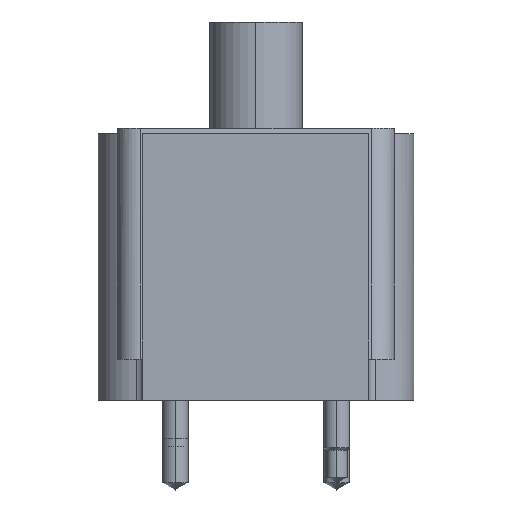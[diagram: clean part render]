
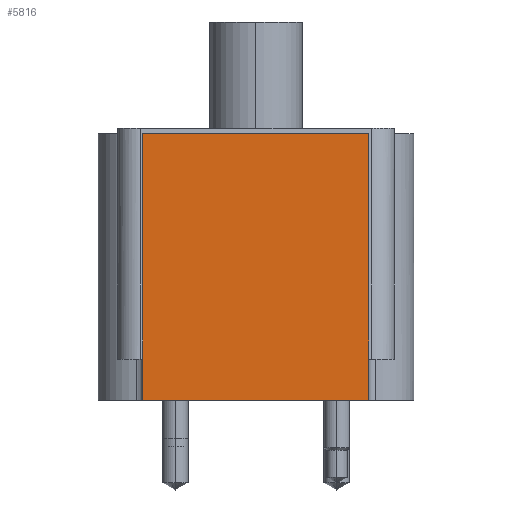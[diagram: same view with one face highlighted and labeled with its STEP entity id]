
A CAD part, left-side view. The second image highlights one B-rep face of the part: STEP entity #5816.
In plain terms, the highlighted planar face has unit normal (-1, 0, 0).
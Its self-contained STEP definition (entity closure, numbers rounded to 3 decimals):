
#5448=CARTESIAN_POINT('',(-84.201,34.988,82.55));
#5449=VERTEX_POINT('',#5448);
#5456=CARTESIAN_POINT('',(-84.201,-34.988,82.55));
#5457=VERTEX_POINT('',#5456);
#5458=CARTESIAN_POINT('',(-84.201,0.0,82.55));
#5459=DIRECTION('',(0.0,1.0,0.0));
#5460=VECTOR('',#5459,1.0);
#5461=LINE('',#5458,#5460);
#5462=EDGE_CURVE('',#5457,#5449,#5461,.T.);
#5786=CARTESIAN_POINT('',(-84.201,34.988,0.0));
#5787=VERTEX_POINT('',#5786);
#5788=CARTESIAN_POINT('',(-84.201,34.988,0.0));
#5789=DIRECTION('',(0.0,0.0,1.0));
#5790=VECTOR('',#5789,1.0);
#5791=LINE('',#5788,#5790);
#5792=EDGE_CURVE('',#5787,#5449,#5791,.T.);
#5793=ORIENTED_EDGE('',*,*,#5792,.F.);
#5794=CARTESIAN_POINT('',(-84.201,-34.988,0.0));
#5795=VERTEX_POINT('',#5794);
#5796=CARTESIAN_POINT('',(-84.201,0.0,0.0));
#5797=DIRECTION('',(0.0,-1.0,0.0));
#5798=VECTOR('',#5797,1.0);
#5799=LINE('',#5796,#5798);
#5800=EDGE_CURVE('',#5787,#5795,#5799,.T.);
#5801=ORIENTED_EDGE('',*,*,#5800,.T.);
#5802=CARTESIAN_POINT('',(-84.201,-34.988,0.0));
#5803=DIRECTION('',(0.0,0.0,-1.0));
#5804=VECTOR('',#5803,1.0);
#5805=LINE('',#5802,#5804);
#5806=EDGE_CURVE('',#5457,#5795,#5805,.T.);
#5807=ORIENTED_EDGE('',*,*,#5806,.F.);
#5808=ORIENTED_EDGE('',*,*,#5462,.T.);
#5809=EDGE_LOOP('',(#5793,#5801,#5807,#5808));
#5810=FACE_OUTER_BOUND('',#5809,.T.);
#5811=CARTESIAN_POINT('',(-84.201,0.0,0.0));
#5812=DIRECTION('',(-1.0,0.0,-0.0));
#5813=DIRECTION('',(-0.0,0.0,1.0));
#5814=AXIS2_PLACEMENT_3D('',#5811,#5812,#5813);
#5815=PLANE('',#5814);
#5816=ADVANCED_FACE('',(#5810),#5815,.T.);
